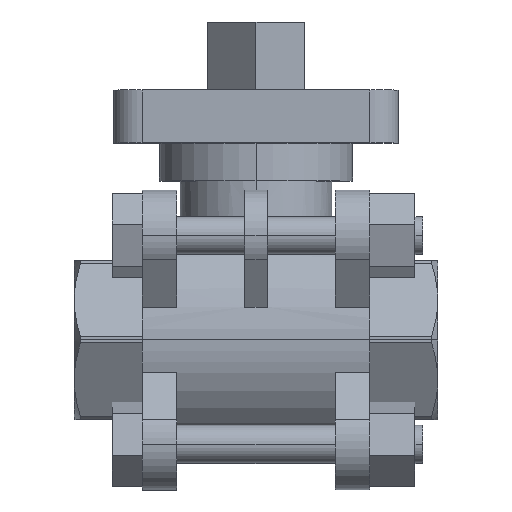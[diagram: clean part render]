
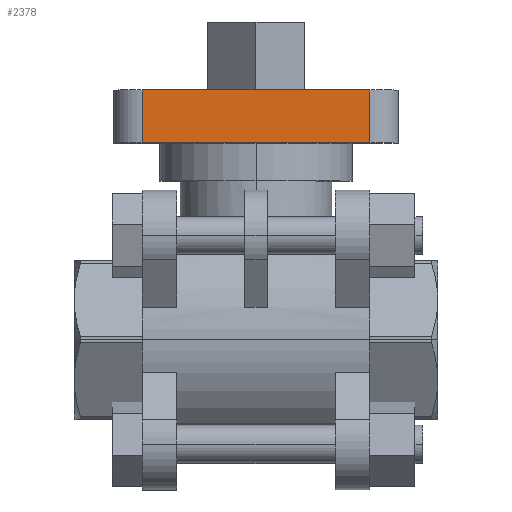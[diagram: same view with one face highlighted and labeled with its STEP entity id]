
A CAD part, top view. The second image highlights one B-rep face of the part: STEP entity #2378.
In plain terms, the highlighted planar face has unit normal (0, 0, 1).
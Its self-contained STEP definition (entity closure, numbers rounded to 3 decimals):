
#165 = ORIENTED_EDGE ( 'NONE', *, *, #5886, .T. ) ;
#455 = CARTESIAN_POINT ( 'NONE',  ( 15.04, 26., 18.8 ) ) ;
#479 = EDGE_CURVE ( 'NONE', #2994, #1333, #2168, .T. ) ;
#618 = VERTEX_POINT ( 'NONE', #2499 ) ;
#745 = DIRECTION ( 'NONE',  ( 0., 1., 0. ) ) ;
#770 = VERTEX_POINT ( 'NONE', #3225 ) ;
#901 = VECTOR ( 'NONE', #6157, 1000. ) ;
#1168 = VECTOR ( 'NONE', #6322, 1000. ) ;
#1299 = CARTESIAN_POINT ( 'NONE',  ( -15.04, 26., 18.8 ) ) ;
#1333 = VERTEX_POINT ( 'NONE', #455 ) ;
#1374 = VECTOR ( 'NONE', #745, 1000. ) ;
#1849 = CARTESIAN_POINT ( 'NONE',  ( -15.04, -129.563, 18.8 ) ) ;
#1873 = DIRECTION ( 'NONE',  ( 0., 0., 1. ) ) ;
#2168 = LINE ( 'NONE', #2814, #901 ) ;
#2286 = FACE_OUTER_BOUND ( 'NONE', #2495, .T. ) ;
#2378 = ADVANCED_FACE ( 'NONE', ( #2286 ), #4594, .T. ) ;
#2495 = EDGE_LOOP ( 'NONE', ( #5741, #165, #3719, #5154 ) ) ;
#2499 = CARTESIAN_POINT ( 'NONE',  ( 15.04, 33., 18.8 ) ) ;
#2808 = LINE ( 'NONE', #5707, #1374 ) ;
#2814 = CARTESIAN_POINT ( 'NONE',  ( -15.04, 26., 18.8 ) ) ;
#2986 = EDGE_CURVE ( 'NONE', #2994, #770, #2808, .T. ) ;
#2994 = VERTEX_POINT ( 'NONE', #1299 ) ;
#3225 = CARTESIAN_POINT ( 'NONE',  ( -15.04, 33., 18.8 ) ) ;
#3556 = DIRECTION ( 'NONE',  ( 0., 1., 0. ) ) ;
#3719 = ORIENTED_EDGE ( 'NONE', *, *, #6310, .F. ) ;
#4096 = LINE ( 'NONE', #6877, #1168 ) ;
#4594 = PLANE ( 'NONE',  #6400 ) ;
#5154 = ORIENTED_EDGE ( 'NONE', *, *, #2986, .F. ) ;
#5707 = CARTESIAN_POINT ( 'NONE',  ( -15.04, -129.563, 18.8 ) ) ;
#5741 = ORIENTED_EDGE ( 'NONE', *, *, #479, .T. ) ;
#5756 = DIRECTION ( 'NONE',  ( 1., 0., 0. ) ) ;
#5886 = EDGE_CURVE ( 'NONE', #1333, #618, #7076, .T. ) ;
#6157 = DIRECTION ( 'NONE',  ( 1., 0., 0. ) ) ;
#6310 = EDGE_CURVE ( 'NONE', #770, #618, #4096, .T. ) ;
#6322 = DIRECTION ( 'NONE',  ( 1., 0., 0. ) ) ;
#6400 = AXIS2_PLACEMENT_3D ( 'NONE', #1849, #1873, #5756 ) ;
#6877 = CARTESIAN_POINT ( 'NONE',  ( -15.04, 33., 18.8 ) ) ;
#6900 = CARTESIAN_POINT ( 'NONE',  ( 15.04, -129.563, 18.8 ) ) ;
#6906 = VECTOR ( 'NONE', #3556, 1000. ) ;
#7076 = LINE ( 'NONE', #6900, #6906 ) ;
